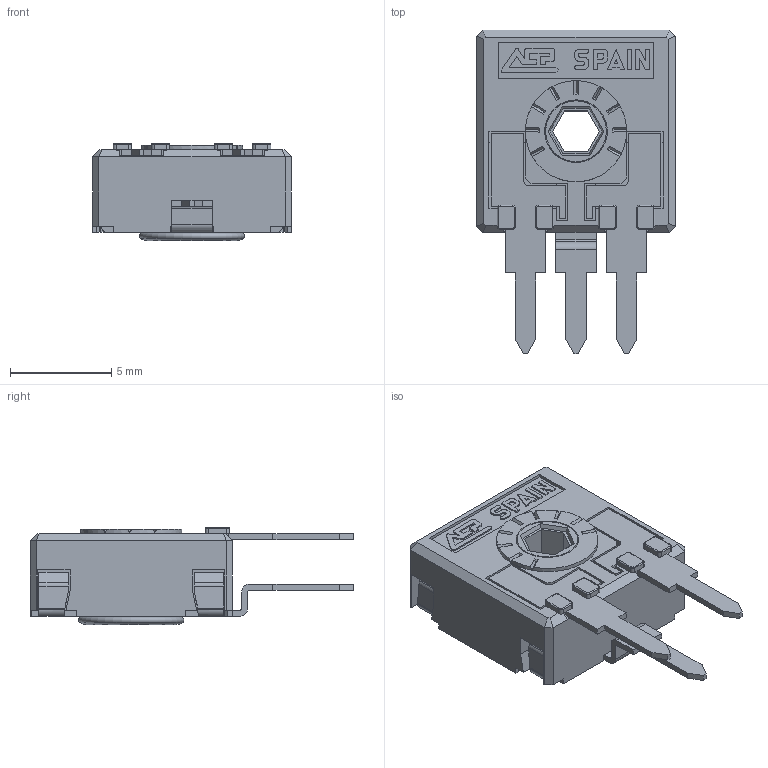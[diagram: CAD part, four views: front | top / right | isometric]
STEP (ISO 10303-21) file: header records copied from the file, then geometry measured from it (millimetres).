
FILE_DESCRIPTION(/* description */ (''),/* implementation_level */ '2;1');
FILE_NAME(/* name */ 'C:\Users\CEM\Desktop\ENVIAR\TRANSICION 3D CATALOGOS\RS9MH2,5.stp',/* time_stamp */ '2025-11-26T17:37:53+01:00',/* author */ ('CEM'),/* organization */ (''),/* preprocessor_version */ 'ST-DEVELOPER v16.13',/* originating_system */ 'Autodesk Inventor 2018',/* authorisation */ '');
FILE_SCHEMA (('AUTOMOTIVE_DESIGN { 1 0 10303 214 3 1 1 }'));
Length unit declared in the file: millimetre
Products named in the file (1): RS9MH2,5
Bounding box: 9.8 x 16 x 4.8 mm (x, y, z)
Volume: 240.7 mm3; surface area: 833.5 mm2
Topology: 2 solids, 2 shells, 603 faces, 1699 edges, 1086 vertices
Faces by surface type: plane 479, cylinder 83, torus 19, cone 16, bspline 6
Full cylindrical faces by diameter (mm): 3 x1, 3.1 x1, 4 x1, 4.8 x1, 5 x1
Entity records: 19444 total; most frequent: CARTESIAN_POINT 3536, ORIENTED_EDGE 3372, DIRECTION 3124, EDGE_CURVE 1684, LINE 1388, VECTOR 1388, VERTEX_POINT 1082, AXIS2_PLACEMENT_3D 868
